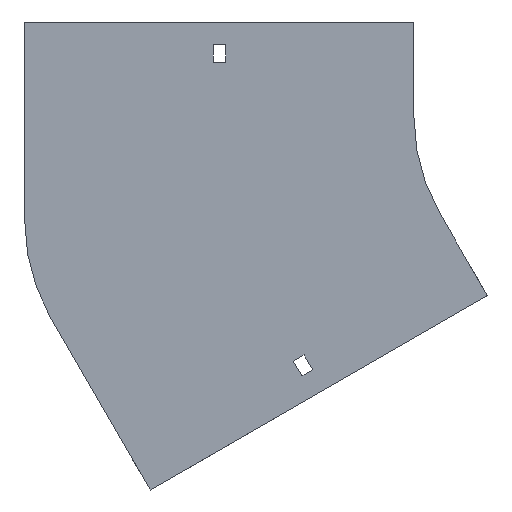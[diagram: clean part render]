
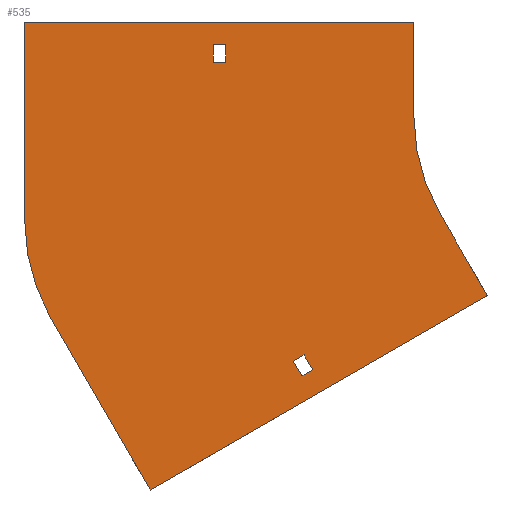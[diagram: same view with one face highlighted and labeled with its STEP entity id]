
A CAD part, front view. The second image highlights one B-rep face of the part: STEP entity #535.
In plain terms, the highlighted planar face has unit normal (0, -1, 0).
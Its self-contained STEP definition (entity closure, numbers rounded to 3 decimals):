
#1 = CARTESIAN_POINT ( 'NONE',  ( -100., 0., 0. ) ) ;
#38 = LINE ( 'NONE', #166, #702 ) ;
#46 = CARTESIAN_POINT ( 'NONE',  ( -157.623, 0., -124.49 ) ) ;
#47 = VERTEX_POINT ( 'NONE', #328 ) ;
#50 = VERTEX_POINT ( 'NONE', #549 ) ;
#52 = DIRECTION ( 'NONE',  ( -0.5, 0., 0.866 ) ) ;
#62 = VERTEX_POINT ( 'NONE', #1335 ) ;
#73 = CARTESIAN_POINT ( 'NONE',  ( -86.603, 0., -50. ) ) ;
#91 = ORIENTED_EDGE ( 'NONE', *, *, #497, .T. ) ;
#105 = VERTEX_POINT ( 'NONE', #580 ) ;
#109 = CARTESIAN_POINT ( 'NONE',  ( 0., 0., 0. ) ) ;
#124 = LINE ( 'NONE', #896, #1176 ) ;
#130 = VECTOR ( 'NONE', #644, 1000. ) ;
#166 = CARTESIAN_POINT ( 'NONE',  ( -61.603, 0., -93.301 ) ) ;
#169 = ORIENTED_EDGE ( 'NONE', *, *, #233, .F. ) ;
#188 = EDGE_CURVE ( 'NONE', #1310, #62, #1342, .T. ) ;
#192 = LINE ( 'NONE', #616, #765 ) ;
#207 = VECTOR ( 'NONE', #506, 1000. ) ;
#208 = VERTEX_POINT ( 'NONE', #690 ) ;
#223 = LINE ( 'NONE', #229, #384 ) ;
#229 = CARTESIAN_POINT ( 'NONE',  ( -158.752, 0., -135.534 ) ) ;
#233 = EDGE_CURVE ( 'NONE', #668, #50, #124, .T. ) ;
#242 = DIRECTION ( 'NONE',  ( -0.5, 0., 0.866 ) ) ;
#268 = CARTESIAN_POINT ( 'NONE',  ( -100., 0., 50. ) ) ;
#272 = FACE_BOUND ( 'NONE', #1363, .T. ) ;
#279 = CARTESIAN_POINT ( 'NONE',  ( 0., 0., 0. ) ) ;
#295 = AXIS2_PLACEMENT_3D ( 'NONE', #279, #1236, #908 ) ;
#306 = CARTESIAN_POINT ( 'NONE',  ( -163.252, 0., -127.74 ) ) ;
#313 = LINE ( 'NONE', #1173, #942 ) ;
#328 = CARTESIAN_POINT ( 'NONE',  ( -61.603, 0., -93.301 ) ) ;
#331 = EDGE_CURVE ( 'NONE', #1360, #1310, #408, .T. ) ;
#354 = CARTESIAN_POINT ( 'NONE',  ( -205.25, 0., 29. ) ) ;
#360 = LINE ( 'NONE', #789, #705 ) ;
#384 = VECTOR ( 'NONE', #1168, 1000. ) ;
#386 = EDGE_CURVE ( 'NONE', #803, #105, #1346, .T. ) ;
#399 = ORIENTED_EDGE ( 'NONE', *, *, #806, .F. ) ;
#408 = LINE ( 'NONE', #1063, #805 ) ;
#446 = VECTOR ( 'NONE', #52, 1000. ) ;
#490 = CARTESIAN_POINT ( 'NONE',  ( -238.272, 0., -195.301 ) ) ;
#497 = EDGE_CURVE ( 'NONE', #632, #524, #1323, .T. ) ;
#506 = DIRECTION ( 'NONE',  ( 0.5, 0., -0.866 ) ) ;
#524 = VERTEX_POINT ( 'NONE', #1258 ) ;
#527 = DIRECTION ( 'NONE',  ( 1., 0., 0. ) ) ;
#535 = ADVANCED_FACE ( 'NONE', ( #272, #814, #1243 ), #810, .T. ) ;
#549 = CARTESIAN_POINT ( 'NONE',  ( -304., 0., 50. ) ) ;
#570 = EDGE_LOOP ( 'NONE', ( #1017, #741, #1022, #1249 ) ) ;
#574 = ORIENTED_EDGE ( 'NONE', *, *, #1061, .T. ) ;
#580 = CARTESIAN_POINT ( 'NONE',  ( -86.603, 0., -50. ) ) ;
#584 = CIRCLE ( 'NONE', #1165, 100. ) ;
#585 = ORIENTED_EDGE ( 'NONE', *, *, #386, .F. ) ;
#602 = LINE ( 'NONE', #1364, #795 ) ;
#616 = CARTESIAN_POINT ( 'NONE',  ( -100., 0., 50. ) ) ;
#632 = VERTEX_POINT ( 'NONE', #1284 ) ;
#643 = VERTEX_POINT ( 'NONE', #1150 ) ;
#644 = DIRECTION ( 'NONE',  ( -1., 0., 0. ) ) ;
#652 = DIRECTION ( 'NONE',  ( -0.866, 0., -0.5 ) ) ;
#657 = DIRECTION ( 'NONE',  ( 0., 0., -1. ) ) ;
#658 = ORIENTED_EDGE ( 'NONE', *, *, #711, .T. ) ;
#668 = VERTEX_POINT ( 'NONE', #1393 ) ;
#676 = DIRECTION ( 'NONE',  ( -0.866, 0., -0.5 ) ) ;
#690 = CARTESIAN_POINT ( 'NONE',  ( -198.75, 0., 38. ) ) ;
#702 = VECTOR ( 'NONE', #676, 1000. ) ;
#705 = VECTOR ( 'NONE', #242, 1000. ) ;
#711 = EDGE_CURVE ( 'NONE', #643, #632, #954, .T. ) ;
#722 = VERTEX_POINT ( 'NONE', #761 ) ;
#729 = AXIS2_PLACEMENT_3D ( 'NONE', #109, #980, #657 ) ;
#741 = ORIENTED_EDGE ( 'NONE', *, *, #188, .F. ) ;
#756 = CARTESIAN_POINT ( 'NONE',  ( -304., 0., 50. ) ) ;
#761 = CARTESIAN_POINT ( 'NONE',  ( -153.123, 0., -132.284 ) ) ;
#763 = DIRECTION ( 'NONE',  ( 0., 1., 0. ) ) ;
#765 = VECTOR ( 'NONE', #1389, 1000. ) ;
#789 = CARTESIAN_POINT ( 'NONE',  ( -238.272, 0., -195.301 ) ) ;
#795 = VECTOR ( 'NONE', #937, 1000. ) ;
#797 = DIRECTION ( 'NONE',  ( 0., 0., 1. ) ) ;
#799 = VERTEX_POINT ( 'NONE', #1071 ) ;
#803 = VERTEX_POINT ( 'NONE', #1 ) ;
#805 = VECTOR ( 'NONE', #652, 1000. ) ;
#806 = EDGE_CURVE ( 'NONE', #1070, #799, #360, .T. ) ;
#808 = CARTESIAN_POINT ( 'NONE',  ( -163.252, 0., -127.74 ) ) ;
#810 = PLANE ( 'NONE',  #295 ) ;
#814 = FACE_OUTER_BOUND ( 'NONE', #1036, .T. ) ;
#857 = VECTOR ( 'NONE', #1209, 1000. ) ;
#865 = ORIENTED_EDGE ( 'NONE', *, *, #1362, .F. ) ;
#882 = VECTOR ( 'NONE', #527, 1000. ) ;
#886 = VERTEX_POINT ( 'NONE', #268 ) ;
#896 = CARTESIAN_POINT ( 'NONE',  ( -304., 0., -54.662 ) ) ;
#908 = DIRECTION ( 'NONE',  ( 0., 0., -1. ) ) ;
#937 = DIRECTION ( 'NONE',  ( 0., 0., -1. ) ) ;
#942 = VECTOR ( 'NONE', #1059, 1000. ) ;
#954 = LINE ( 'NONE', #1385, #130 ) ;
#962 = EDGE_CURVE ( 'NONE', #722, #1360, #1324, .T. ) ;
#980 = DIRECTION ( 'NONE',  ( 0., -1., 0. ) ) ;
#985 = DIRECTION ( 'NONE',  ( 0., 0., 1. ) ) ;
#989 = EDGE_CURVE ( 'NONE', #47, #1070, #38, .T. ) ;
#1017 = ORIENTED_EDGE ( 'NONE', *, *, #1231, .F. ) ;
#1022 = ORIENTED_EDGE ( 'NONE', *, *, #331, .F. ) ;
#1036 = EDGE_LOOP ( 'NONE', ( #1300, #169, #1178, #399, #1272, #1269, #585, #865 ) ) ;
#1039 = LINE ( 'NONE', #73, #207 ) ;
#1041 = EDGE_CURVE ( 'NONE', #105, #47, #1039, .T. ) ;
#1059 = DIRECTION ( 'NONE',  ( 1., 0., 0. ) ) ;
#1061 = EDGE_CURVE ( 'NONE', #208, #643, #602, .T. ) ;
#1062 = CARTESIAN_POINT ( 'NONE',  ( -157.623, 0., -124.49 ) ) ;
#1063 = CARTESIAN_POINT ( 'NONE',  ( -163.252, 0., -127.74 ) ) ;
#1066 = LINE ( 'NONE', #756, #882 ) ;
#1070 = VERTEX_POINT ( 'NONE', #490 ) ;
#1071 = CARTESIAN_POINT ( 'NONE',  ( -290.603, 0., -104.662 ) ) ;
#1087 = VECTOR ( 'NONE', #1320, 1000. ) ;
#1150 = CARTESIAN_POINT ( 'NONE',  ( -198.75, 0., 29. ) ) ;
#1162 = CARTESIAN_POINT ( 'NONE',  ( -204., 0., -54.662 ) ) ;
#1165 = AXIS2_PLACEMENT_3D ( 'NONE', #1162, #763, #985 ) ;
#1168 = DIRECTION ( 'NONE',  ( 0.866, 0., 0.5 ) ) ;
#1173 = CARTESIAN_POINT ( 'NONE',  ( -205.25, 0., 38. ) ) ;
#1176 = VECTOR ( 'NONE', #797, 1000. ) ;
#1178 = ORIENTED_EDGE ( 'NONE', *, *, #1233, .F. ) ;
#1189 = EDGE_CURVE ( 'NONE', #524, #208, #313, .T. ) ;
#1209 = DIRECTION ( 'NONE',  ( 0., 0., 1. ) ) ;
#1231 = EDGE_CURVE ( 'NONE', #62, #722, #223, .T. ) ;
#1233 = EDGE_CURVE ( 'NONE', #799, #668, #584, .T. ) ;
#1236 = DIRECTION ( 'NONE',  ( 0., -1., 0. ) ) ;
#1243 = FACE_BOUND ( 'NONE', #570, .T. ) ;
#1249 = ORIENTED_EDGE ( 'NONE', *, *, #962, .F. ) ;
#1258 = CARTESIAN_POINT ( 'NONE',  ( -205.25, 0., 38. ) ) ;
#1260 = ORIENTED_EDGE ( 'NONE', *, *, #1189, .T. ) ;
#1269 = ORIENTED_EDGE ( 'NONE', *, *, #1041, .F. ) ;
#1272 = ORIENTED_EDGE ( 'NONE', *, *, #989, .F. ) ;
#1274 = EDGE_CURVE ( 'NONE', #50, #886, #1066, .T. ) ;
#1284 = CARTESIAN_POINT ( 'NONE',  ( -205.25, 0., 29. ) ) ;
#1300 = ORIENTED_EDGE ( 'NONE', *, *, #1274, .F. ) ;
#1310 = VERTEX_POINT ( 'NONE', #306 ) ;
#1320 = DIRECTION ( 'NONE',  ( 0.5, 0., -0.866 ) ) ;
#1323 = LINE ( 'NONE', #354, #857 ) ;
#1324 = LINE ( 'NONE', #46, #446 ) ;
#1335 = CARTESIAN_POINT ( 'NONE',  ( -158.752, 0., -135.534 ) ) ;
#1342 = LINE ( 'NONE', #808, #1087 ) ;
#1346 = CIRCLE ( 'NONE', #729, 100. ) ;
#1360 = VERTEX_POINT ( 'NONE', #1062 ) ;
#1362 = EDGE_CURVE ( 'NONE', #886, #803, #192, .T. ) ;
#1363 = EDGE_LOOP ( 'NONE', ( #91, #1260, #574, #658 ) ) ;
#1364 = CARTESIAN_POINT ( 'NONE',  ( -198.75, 0., 29. ) ) ;
#1385 = CARTESIAN_POINT ( 'NONE',  ( -205.25, 0., 29. ) ) ;
#1389 = DIRECTION ( 'NONE',  ( 0., 0., -1. ) ) ;
#1393 = CARTESIAN_POINT ( 'NONE',  ( -304., 0., -54.662 ) ) ;
